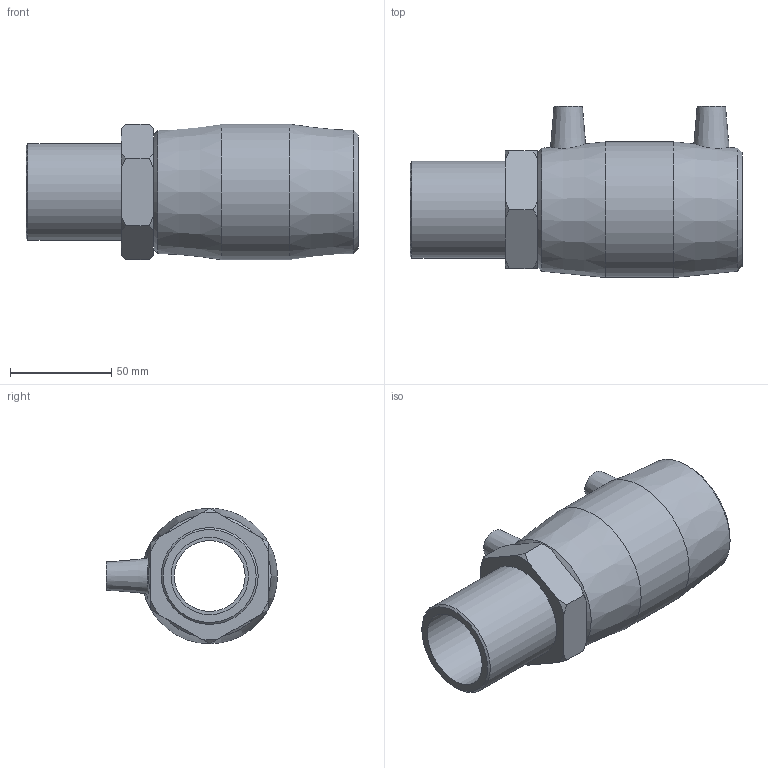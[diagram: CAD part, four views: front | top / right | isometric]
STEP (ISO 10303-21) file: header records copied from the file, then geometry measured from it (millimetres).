
FILE_DESCRIPTION(/* description */ ('PLASSON Male Transition Coupler 50 x 11⁄2"'),/* implementation_level */ '2;1');
FILE_NAME(/* name */ 'C:\Dropbox\KIMPROJECTS-Inventor\99-16-3568-Processing\ElectroFusion Fittings\02.02.20\492104\492104050015N.ipt.stp',/* time_stamp */ '2020-02-02T12:19:04+02:00',/* author */ ('KIM'),/* organization */ (''),/* preprocessor_version */ 'ST-DEVELOPER v15.6',/* originating_system */ 'Autodesk Inventor 2015',/* authorisation */ '');
FILE_SCHEMA (('AUTOMOTIVE_DESIGN { 1 0 10303 214 3 1 1 }'));
Length unit declared in the file: millimetre
Products named in the file (1): 492104050015N
Bounding box: 164 x 84.5 x 67 mm (x, y, z)
Volume: 249865.5 mm3; surface area: 62497.7 mm2
Topology: 1 solids, 2 shells, 54 faces, 118 edges, 77 vertices
Faces by surface type: plane 21, cone 21, cylinder 12
Full cylindrical faces by diameter (mm): 4 x2, 10 x2, 35 x1, 38.242 x1, 47.803 x1, 50 x4, 67 x1
Entity records: 1386 total; most frequent: CARTESIAN_POINT 329, DIRECTION 218, ORIENTED_EDGE 178, AXIS2_PLACEMENT_3D 100, EDGE_LOOP 90, EDGE_CURVE 89, VERTEX_POINT 71, FACE_OUTER_BOUND 54
